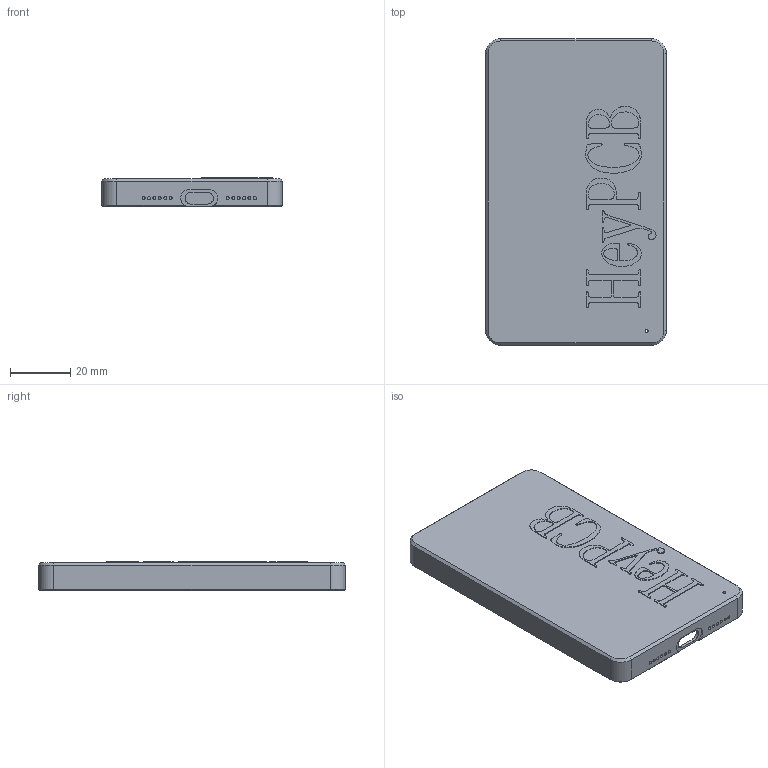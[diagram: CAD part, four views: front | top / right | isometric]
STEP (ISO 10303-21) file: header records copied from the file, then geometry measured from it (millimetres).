
FILE_DESCRIPTION(('Open CASCADE Model'),'2;1');
FILE_NAME('Open CASCADE Shape Model','2026-10-13T02:31:09',('Author'),( 'Open CASCADE'),'Open CASCADE STEP processor 8.0','build123d', 'Unknown');
FILE_SCHEMA(('AUTOMOTIVE_DESIGN { 1 0 10303 214 1 1 1 1 }'));
Length unit declared in the file: millimetre
Products named in the file (1): COMPOUND
Bounding box: 60 x 102 x 9.35 mm (x, y, z)
Volume: 10998.4 mm3; surface area: 17947.9 mm2
Topology: 1 solids, 1 shells, 386 faces, 1075 edges, 711 vertices
Faces by surface type: extrusion 177, plane 133, cylinder 68, cone 8
Full cylindrical faces by diameter (mm): 1 x13, 1.25 x5, 2 x1, 2.2 x1
Entity records: 27634 total; most frequent: CARTESIAN_POINT 7613, DIRECTION 3048, VECTOR 2256, ORIENTED_EDGE 2150, PCURVE 2150, DEFINITIONAL_REPRESENTATION 2150, LINE 2079, EDGE_CURVE 1075
